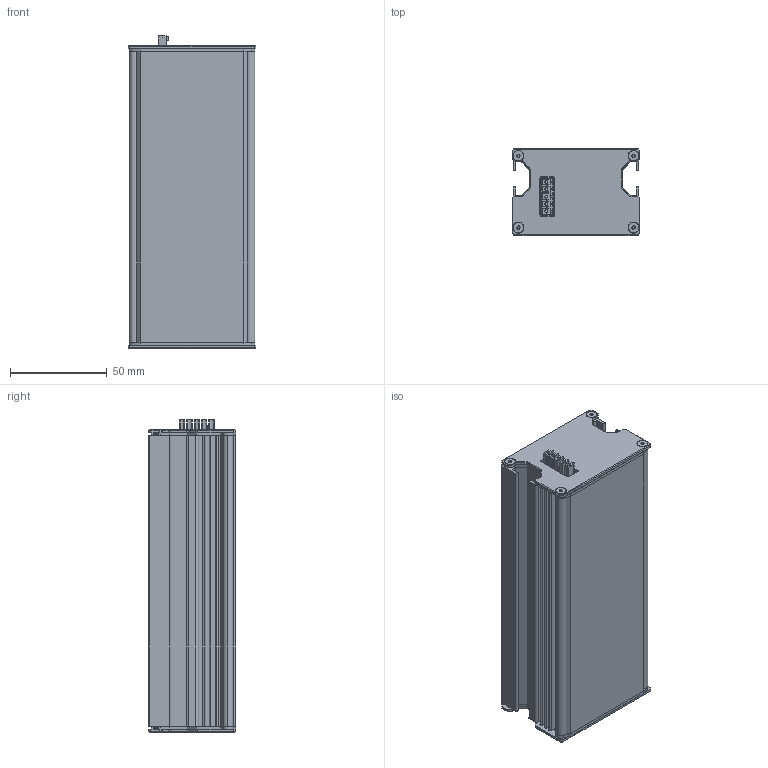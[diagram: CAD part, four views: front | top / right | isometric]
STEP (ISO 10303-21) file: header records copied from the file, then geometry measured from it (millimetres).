
FILE_DESCRIPTION (( 'STEP AP214' ), '1' );
FILE_NAME ('LX150.STEP', '2022-03-04T14:05:37', ( '' ), ( '' ), 'SwSTEP 2.0', 'SolidWorks 2021', '' );
FILE_SCHEMA (( 'AUTOMOTIVE_DESIGN' ));
Length unit declared in the file: millimetre
Products named in the file (13): LX150-DRVR-sub_1; LX Connector Tool; 150-CBDRVR_A; LX-ECM_A; mc_1_5-5-gf-3_811_1; LX-ECF_A; LX150-CBLED_1; LX150-EXT_1; LX150; lx150-cc; LX150-MEG_A; LX150-FEG_A; 95893A215_95893A215
Assembly tree (19 placements, depth 3):
  LX150
    LX150-EXT_1
    LX150-CBLED_1
    LX150-DRVR-sub_1
      LX Connector Tool
      mc_1_5-5-gf-3_811_1
      150-CBDRVR_A
    LX-ECM_A
    95893A215_95893A215  x8
    LX-ECF_A
    LX150-MEG_A
    LX150-FEG_A
    lx150-cc
Bounding box: 66 x 45 x 161.15 mm (x, y, z)
Volume: 152965.7 mm3; surface area: 155667.9 mm2
Topology: 18 solids, 18 shells, 1934 faces, 5270 edges, 3467 vertices
Faces by surface type: cylinder 879, plane 835, bspline 128, cone 79, sphere 13
Entity records: 43611 total; most frequent: CARTESIAN_POINT 9202, ORIENTED_EDGE 6852, DIRECTION 6615, EDGE_CURVE 3426, LINE 2343, VECTOR 2343, VERTEX_POINT 2240, AXIS2_PLACEMENT_3D 2136
